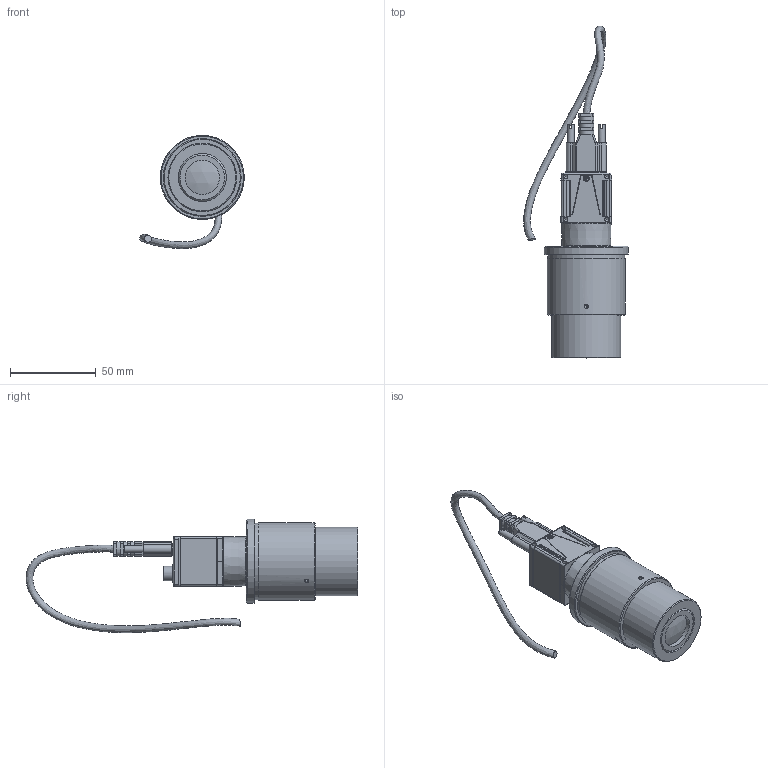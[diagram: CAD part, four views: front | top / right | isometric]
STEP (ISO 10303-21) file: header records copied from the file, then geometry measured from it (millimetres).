
FILE_DESCRIPTION(/* description */ (''),/* implementation_level */ '2;1');
FILE_NAME(/* name */ '\\SERVEUR-09\Entreprise\Bureau-Technique\Produits Web\videos\optiques\MA735-002-006.stp',/* time_stamp */ '2018-10-01T08:23:52+02:00',/* author */ ('ms'),/* organization */ ('Marcel Aubert'),/* preprocessor_version */ 'ST-DEVELOPER v17',/* originating_system */ 'Autodesk Inventor 2019',/* authorisation */ '');
FILE_SCHEMA (('AUTOMOTIVE_DESIGN { 1 0 10303 214 3 1 1 }'));
Products named in the file (1): Pièce1
Bounding box: 60.96 x 193.39 x 65.97 mm (x, y, z)
Volume: 128771.4 mm3; surface area: 34519.9 mm2
Topology: 1 solids, 10 shells, 914 faces, 2480 edges, 1629 vertices
Faces by surface type: plane 569, cylinder 226, cone 54, bspline 35, torus 27, sphere 3
Full cylindrical faces by diameter (mm): 0.4 x8, 1.6 x2, 2.459 x6, 2.5 x4, 3 x2, 3.2 x1, 3.9 x2, 6.8 x1, 8.5 x1, 8.6 x3, 10 x1, 10.6 x1, 19 x1, 20 x1, 22.3 x1, 24.8 x1, 25.4 x1, 26 x1, 28 x2, 36.4 x1, 37.6 x1, 40 x3, 40.3 x1, 44.7 x1, 45.3 x1, 49 x1
Entity records: 43733 total; most frequent: CARTESIAN_POINT 19360, ORIENTED_EDGE 4946, DIRECTION 4810, EDGE_CURVE 2473, LINE 1640, VECTOR 1640, VERTEX_POINT 1629, AXIS2_PLACEMENT_3D 1585
